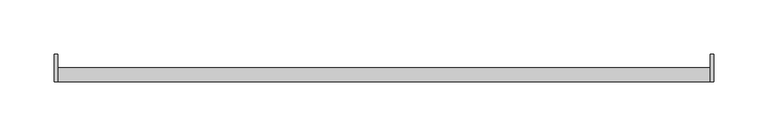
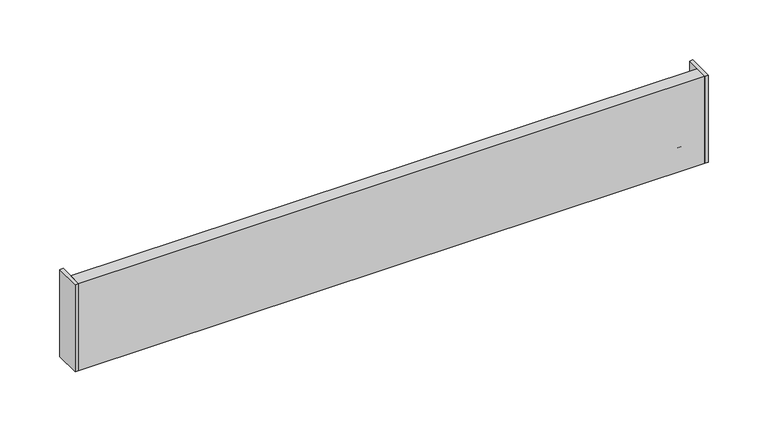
"""IFC4 building model written with IfcOpenShell, lengths in millimetres: furniture geometry."""

from ifc_helpers import new_model, si_unit, frame, origin, place, context, project, spatial, polyline, outline, extrude, source, transform, mapped, element, save


def furniture_52571506(model_context):
    return source(origin(), model_context, "Body", "SweptSolid", [
        extrude(outline(polyline([(-301.625, 12.6999996), (-301.625, -12.7000004), (-304.8, -12.7000004), (-304.8, 12.6999996), (-301.625, 12.6999996)])), frame((0.0, 0.0, 1028.7), z_axis=(0.0, 0.0, 1.0), x_axis=(1.0, 0.0, 0.0)), (0.0, 0.0, 1.0), 88.9),
        extrude(outline(polyline([(304.8, 12.6999996), (304.8, -12.7000004), (301.625, -12.7000004), (301.625, 12.6999996), (304.8, 12.6999996)])), frame((0.0, 0.0, 1028.7), z_axis=(0.0, 0.0, 1.0), x_axis=(1.0, 0.0, 0.0)), (0.0, 0.0, 1.0), 88.9),
        extrude(outline(polyline([(301.625, 0.0), (301.625, -12.7000004), (-301.625, -12.7000004), (-301.625, 0.0), (301.625, 0.0)])), frame((0.0, 0.0, 1028.7), z_axis=(0.0, 0.0, 1.0), x_axis=(1.0, 0.0, 0.0)), (0.0, 0.0, 1.0), 88.9),
        extrude(outline(polyline([(-12.7000004, 1104.8999966), (-12.7000004, 1117.6), (0.0, 1117.6), (0.0, 1028.7), (-12.7000004, 1028.7), (-12.7000004, 1054.0999966), (-3.1750002, 1054.0999966), (-3.1750002, 1066.7999966), (-12.7000004, 1066.7999966), (-12.7000004, 1092.1999966), (-3.1750002, 1092.1999966), (-3.1750002, 1104.8999966), (-12.7000004, 1104.8999966)])), frame((-301.625, 0.0, 0.0), z_axis=(1.0, 0.0, 0.0), x_axis=(0.0, 1.0, 0.0)), (0.0, 0.0, 1.0), 603.25),
        extrude(outline(polyline([(-12.7000004, 1117.6), (0.0, 1117.6), (0.0, 1104.8999966), (12.6999996, 1104.8999966), (12.6999996, 1041.399997), (0.0, 1041.399997), (0.0, 1028.7), (-12.7000004, 1028.7), (-12.7000004, 1117.6)])), frame((-304.8, 0.0, 0.0), z_axis=(1.0, 0.0, 0.0), x_axis=(0.0, 1.0, 0.0)), (0.0, 0.0, 1.0), 3.175),
        extrude(outline(polyline([(-12.7000004, 1117.6), (0.0, 1117.6), (0.0, 1104.8999966), (12.6999996, 1104.8999966), (12.6999996, 1041.399997), (0.0, 1041.399997), (0.0, 1028.7), (-12.7000004, 1028.7), (-12.7000004, 1117.6)])), frame((301.625, 0.0, 0.0), z_axis=(1.0, 0.0, 0.0), x_axis=(0.0, 1.0, 0.0)), (0.0, 0.0, 1.0), 3.175),
    ])


if __name__ == "__main__":
    model = new_model("IFC4")
    model_context = context("Model", 3, world=origin())
    ifc_project = project(units=[si_unit("LENGTHUNIT", "METRE", prefix="MILLI")], contexts=[model_context])
    site = spatial("IfcSite", under=ifc_project)
    building = spatial("IfcBuilding", under=site)
    placement = place(None, origin())
    furniture_shape = furniture_52571506(model_context)
    element("IfcFurniture", 1, ObjectType="HermanMiller_ActionOffice_A3610_ToolBar : 4\"H x 24\"W", at=placement, inside=building, context=model_context, shape_type="MappedRepresentation", body=[
        mapped(furniture_shape, transform((0.0, 0.0, 0.0), x_axis=(1.0, 0.0, 0.0), y_axis=(0.0, 1.0, 0.0), z_axis=(0.0, 0.0, 1.0))),
    ])
    save(model, "model.ifc")
